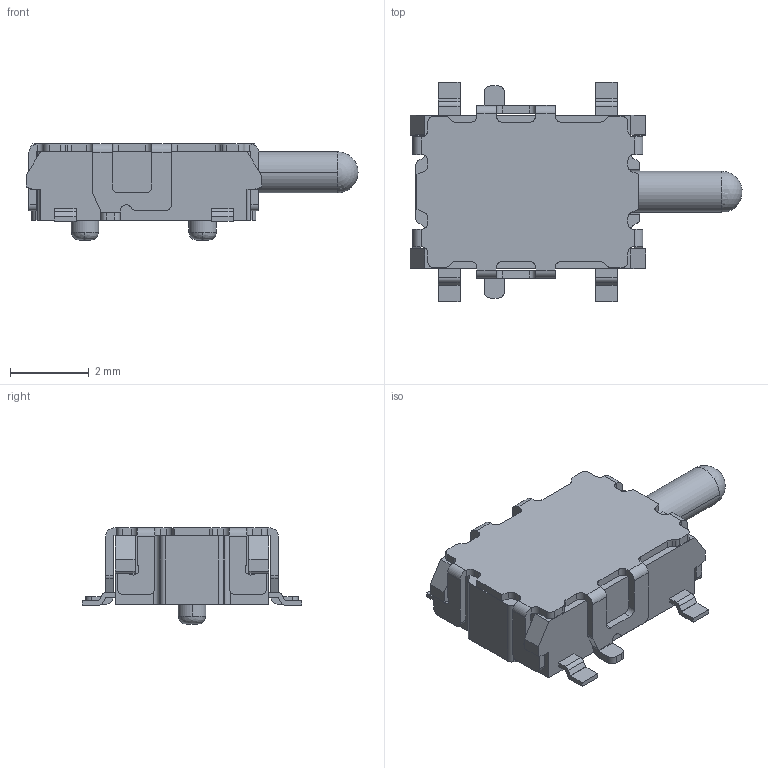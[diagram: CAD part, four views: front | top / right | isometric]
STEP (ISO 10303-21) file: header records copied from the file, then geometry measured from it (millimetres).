
FILE_DESCRIPTION((''),'2;1');
FILE_NAME('JJD5640W-H0851-ADY-105_ASM','2026-07-24T16:00:26',('Admin'),(''),'CREO PARAMETRIC BY PTC INC, 2019224','CREO PARAMETRIC BY PTC INC, 2019224','');
FILE_SCHEMA(('AUTOMOTIVE_DESIGN { 1 0 10303 214 1 1 1 1 }'));
Length unit declared in the file: millimetre
Products named in the file (4): JJD5640W-H0851-ADY-105_04; JJD5640W-H0851-ADY-105_05; JJD5640W-H0851-ADY-105_03_ASM; JJD5640W-H0851-ADY-105_ASM
Assembly tree (3 placements, depth 3):
  JJD5640W-H0851-ADY-105_ASM
    JJD5640W-H0851-ADY-105_03_ASM
      JJD5640W-H0851-ADY-105_04
      JJD5640W-H0851-ADY-105_05
Bounding box: 8.45 x 5.6 x 2.45 mm (x, y, z)
Volume: 29.3 mm3; surface area: 218.2 mm2
Topology: 2 solids, 2 shells, 444 faces, 1281 edges, 850 vertices
Faces by surface type: plane 250, cylinder 167, bspline 18, cone 6, torus 2, sphere 1
Entity records: 18153 total; most frequent: CARTESIAN_POINT 3217, ORIENTED_EDGE 2556, DIRECTION 2487, EDGE_CURVE 1278, VECTOR 863, LINE 863, VERTEX_POINT 848, AXIS2_PLACEMENT_3D 812
